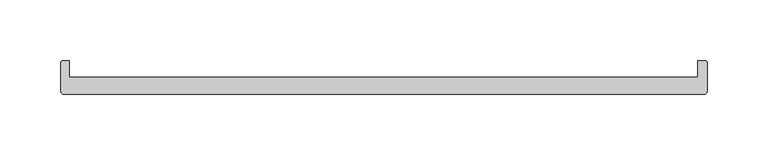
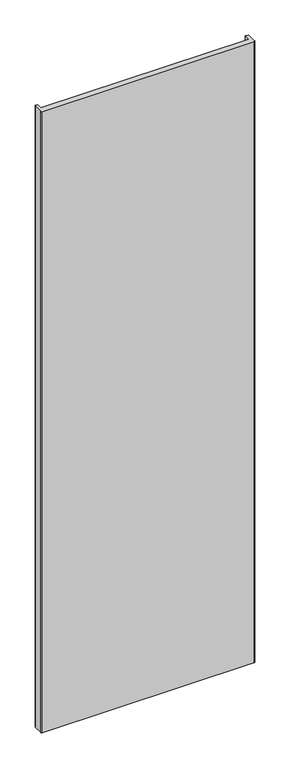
"""IFC4 building model written with IfcOpenShell, lengths in millimetres: plate geometry, Walls_Curtain-Walls_Danpal_NM : Walls_Curtain-Walls_Danpal_NM."""

from ifc_helpers import new_model, si_unit, point, frame_2d, origin, origin_with_axes, place, context, project, spatial, polyline, circle_curve, trimmed, segment, composite_curve, outline, extrude, source, transform, mapped, element, save


def plate_8215ef0c(model_context):
    return source(origin(), model_context, "Body", "SweptSolid", [
        extrude(outline(composite_curve([segment(polyline([(261.9253712, 0.0), (-262.9491187, 0.0)]), True, "CONTINUOUS"), segment(trimmed(circle_curve(frame_2d((-262.9491187, 2.6508813)), 2.6508813), [point((-262.9491187, 0.0))], [point((-265.6, 2.6508813))], False, "CARTESIAN"), True, "CONTINUOUS"), segment(polyline([(-265.6, 2.6508813), (-265.6, 26.0669991)]), True, "CONTINUOUS"), segment(trimmed(circle_curve(frame_2d((-264.2745594, 26.0669991)), 1.3254406), [point((-265.6, 26.0669991))], [point((-264.2745594, 27.3924397))], False, "CARTESIAN"), True, "CONTINUOUS"), segment(polyline([(-264.2745594, 27.3924397), (-258.6, 27.3924397), (-258.6, 14.1225989), (256.8568956, 14.1380334), (256.8568956, 27.3924397), (263.2508119, 27.3924397)]), True, "CONTINUOUS"), segment(trimmed(circle_curve(frame_2d((263.2508119, 26.0669991)), 1.3254406), [point((263.2508119, 27.3924397))], [point((264.5762525, 26.0669991))], False, "CARTESIAN"), True, "CONTINUOUS"), segment(polyline([(264.5762525, 26.0669991), (264.5762525, 2.6508813)]), True, "CONTINUOUS"), segment(trimmed(circle_curve(frame_2d((261.9253712, 2.6508813)), 2.6508813), [point((264.5762525, 2.6508813))], [point((261.9253712, 0.0))], False, "CARTESIAN"), True, "CONTINUOUS")], self_intersect=False)), origin_with_axes(), (0.0, 0.0, 1.0), 1629.047587),
    ])


if __name__ == "__main__":
    model = new_model("IFC4")
    model_context = context("Model", 3, world=origin())
    ifc_project = project(units=[si_unit("LENGTHUNIT", "METRE", prefix="MILLI")], contexts=[model_context])
    site = spatial("IfcSite", under=ifc_project)
    building = spatial("IfcBuilding", under=site)
    placement = place(None, origin())
    plate_shape = plate_8215ef0c(model_context)
    element("IfcPlate", 1, ObjectType="Walls_Curtain-Walls_Danpal_NM : Walls_Curtain-Walls_Danpal_NM", at=placement, inside=building, context=model_context, shape_type="MappedRepresentation", body=[
        mapped(plate_shape, transform((0.0, 0.0, 0.0), x_axis=(1.0, 0.0, 0.0), y_axis=(0.0, 1.0, 0.0), z_axis=(0.0, 0.0, 1.0))),
    ])
    save(model, "model.ifc")
